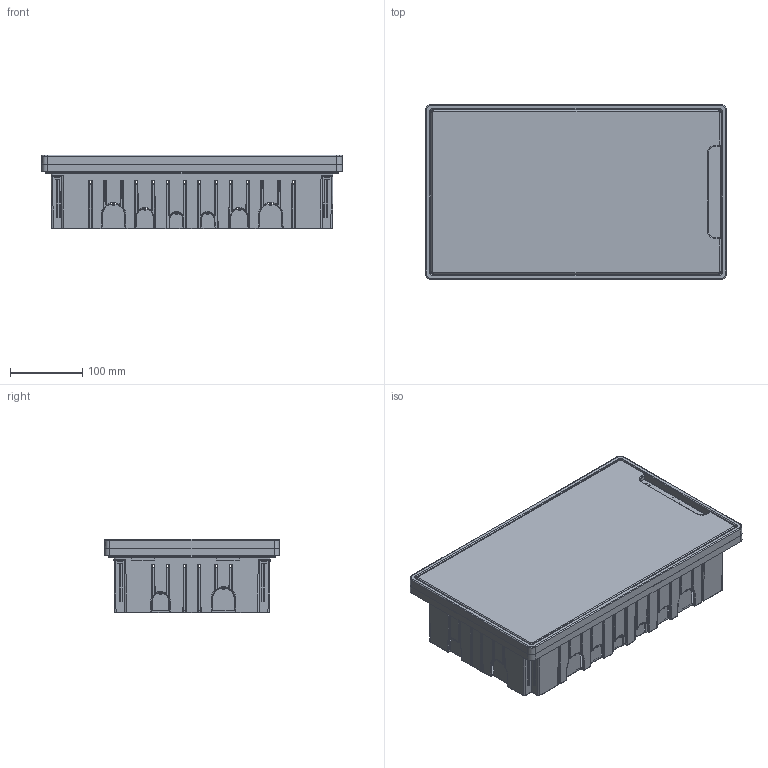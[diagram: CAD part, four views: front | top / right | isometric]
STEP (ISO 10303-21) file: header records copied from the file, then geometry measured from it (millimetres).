
FILE_DESCRIPTION (( 'STEP AP203' ), '1' );
FILE_NAME ('F18B1BD 糂琲籵褌隆 18.STEP', '2025-10-13T07:21:01', ( '' ), ( '' ), 'SwSTEP 2.0', 'SolidWorks 2022', '' );
FILE_SCHEMA (( 'CONFIG_CONTROL_DESIGN' ));
Products named in the file (6): TPA.08.0103.00.05.0 simple; F18B1BD встраиваемый 18; TPA.08.0163.00.01.0 simple; RB.2992.00.00.0 simple_-04; TPA.08.0162.00.03.0; TPA.08.0103.00.04.0 simple
Assembly tree (6 placements, depth 2):
  F18B1BD встраиваемый 18
    TPA.08.0163.00.01.0 simple
    TPA.08.0162.00.03.0  x2
    RB.2992.00.00.0 simple_-04
    TPA.08.0103.00.04.0 simple
    TPA.08.0103.00.05.0 simple
Bounding box: 416.4 x 242.4 x 102 mm (x, y, z)
Volume: 1513722.7 mm3; surface area: 922217.9 mm2
Topology: 6 solids, 34 shells, 4668 faces, 12273 edges, 7543 vertices
Faces by surface type: cylinder 1821, plane 1765, bspline 584, sphere 214, torus 170, cone 114
Full cylindrical faces by diameter (mm): 3 x2, 4.66 x4
Entity records: 200016 total; most frequent: CARTESIAN_POINT 98560, ORIENTED_EDGE 23172, DIRECTION 17968, EDGE_CURVE 11586, VERTEX_POINT 7153, VECTOR 6456, LINE 6456, AXIS2_PLACEMENT_3D 5756
